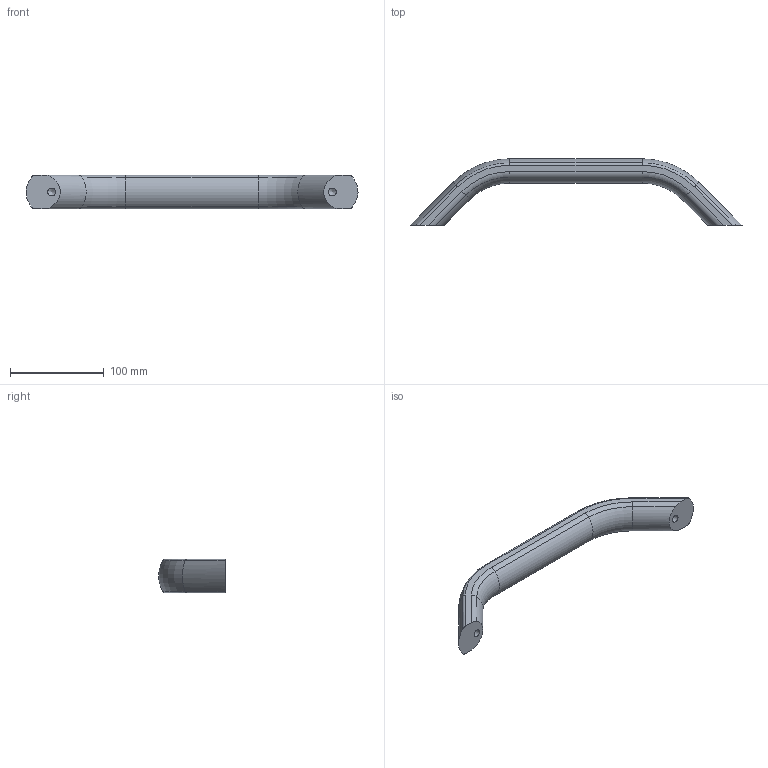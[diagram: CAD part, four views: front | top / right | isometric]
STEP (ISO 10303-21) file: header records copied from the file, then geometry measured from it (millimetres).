
FILE_DESCRIPTION( ( 'STEP AP203' ), '1' );
FILE_NAME( 'C:/Temp/Ganter_Step_05_03_2020/data/1_2/gn_428/gn_428_a/Cabinet U-handle GN 428-AL-36-300-A-SR.stp', '2020-03-05T10:11:29', ( 'License CC BY-ND 4.0' ), ( 'CADENAS' ), ' ', 'PARTsolutions', ' ' );
FILE_SCHEMA( ( 'CONFIG_CONTROL_DESIGN' ) );
Length unit declared in the file: millimetre
Products named in the file (1): _Cabinet U-handle GN 428-AL-36-300-A-SR
Bounding box: 354.73 x 70.91 x 36 mm (x, y, z)
Volume: 276068.7 mm3; surface area: 39875.9 mm2
Topology: 1 solids, 1 shells, 38 faces, 90 edges, 54 vertices
Faces by surface type: cylinder 20, torus 12, plane 4, cone 2
Full cylindrical faces by diameter (mm): 8.376 x2
Entity records: 1120 total; most frequent: DIRECTION 218, CARTESIAN_POINT 177, ORIENTED_EDGE 168, AXIS2_PLACEMENT_3D 95, EDGE_CURVE 84, VERTEX_POINT 54, CIRCLE 44, EDGE_LOOP 42
